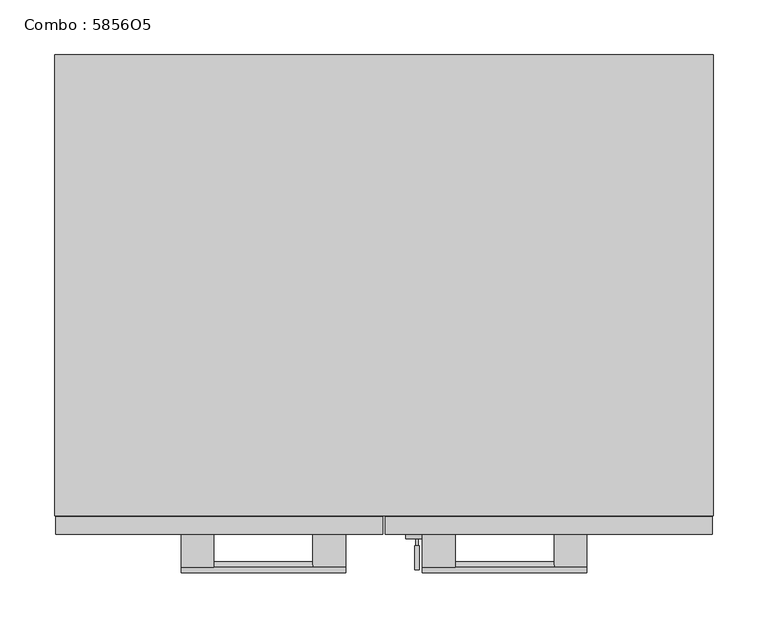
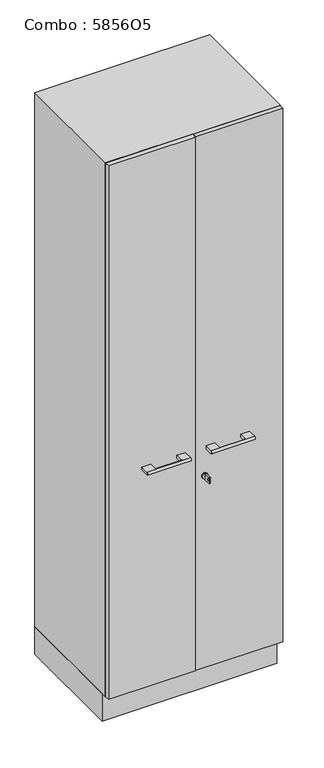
"""IFC4 building model written with IfcOpenShell, lengths in millimetres: furniture geometry, Combo : 5856O5."""

from ifc_helpers import new_model, si_unit, point, frame, frame_2d, origin, origin_with_axes, place, context, project, spatial, polyline, circle_curve, trimmed, segment, composite_curve, outline, extrude, source, transform, mapped, element, save
from ifc_brep_helpers import plane_surface, cylinder_surface, advanced_brep


def combo_5856o5_f4b56ffa(model_context):
    return source(origin(), model_context, "Body", "SolidModel", [
        extrude(outline(polyline([(-300.0, -400.0), (-300.0, 0.0), (300.0, 0.0), (300.0, -400.0), (-300.0, -400.0)])), origin_with_axes(), (0.0, 0.0, 1.0), 100.0),
        extrude(outline(composite_curve([segment(trimmed(circle_curve(frame_2d((800.0, 30.0)), 10.0), [point((800.0, 20.0))], [point((800.0, 40.0))], False, "CARTESIAN"), True, "CONTINUOUS"), segment(trimmed(circle_curve(frame_2d((800.0, 30.0)), 10.0), [point((800.0, 40.0))], [point((800.0, 20.0))], False, "CARTESIAN"), True, "CONTINUOUS")], self_intersect=False)), frame((0.0, -441.0, 0.0), z_axis=(0.0, 1.0, 0.0), x_axis=(0.0, 0.0, 1.0)), (0.0, 0.0, 1.0), 4.0),
        extrude(outline(polyline([(-469.0, 789.014113), (-469.0, 811.0), (-447.0, 811.0), (-447.0, 789.014113), (-469.0, 789.014113)]), holes=[composite_curve([segment(trimmed(circle_curve(frame_2d((-462.75, 800.0070565)), 3.2230706), [point((-462.75, 803.2301271))], [point((-462.75, 796.7839859))], True, "CARTESIAN"), True, "CONTINUOUS"), segment(trimmed(circle_curve(frame_2d((-462.75, 800.0070565)), 3.2230706), [point((-462.75, 796.7839859))], [point((-462.75, 803.2301271))], True, "CARTESIAN"), True, "CONTINUOUS")], self_intersect=False)]), frame((28.0, 0.0, 0.0), z_axis=(1.0, 0.0, 0.0), x_axis=(0.0, 1.0, 0.0)), (0.0, 0.0, 1.0), 4.0416064),
        extrude(outline(polyline([(31.0416064, -447.0), (29.0, -447.0), (29.0, -441.0), (31.0416064, -441.0), (31.0416064, -447.0)])), frame((0.0, 0.0, 796.014113), z_axis=(0.0, 0.0, 1.0), x_axis=(1.0, 0.0, 0.0)), (0.0, 0.0, 1.0), 7.985887),
        advanced_brep(
        [(-185.0, -467.0, 905.0), (-185.0, -437.0, 905.0), (-185.0, -437.0, 895.0), (-185.0, -467.0, 895.0), (-155.0, -467.0, 895.0), (-155.0, -437.0, 895.0), (-155.0, -437.0, 905.0), (-155.0, -467.0, 905.0), (-35.0, -467.0, 905.0), (-35.0, -467.0, 895.0), (-35.0, -437.0, 895.0), (-35.0, -437.0, 905.0), (-65.0, -467.0, 905.0), (-65.0, -467.0, 895.0), (-65.0, -437.0, 905.0), (-65.0, -437.0, 895.0)],
        [
            (0, 1),
            (1, 2),
            (2, 3),
            (3, 0, circle_curve(frame((-185.0, -467.0, 900.0), z_axis=(-1.0, 0.0, 0.0), x_axis=(0.0, 0.0, -1.0)), 5.0)),
            (4, 5),
            (5, 6),
            (6, 7),
            (7, 4, circle_curve(frame((-155.0, -467.0, 900.0), z_axis=(-1.0, 0.0, 0.0), x_axis=(0.0, 0.0, -1.0)), 5.0)),
            (2, 5),
            (4, 3),
            (1, 6),
            (0, 7),
            (8, 9, circle_curve(frame((-35.0, -467.0, 900.0), z_axis=(1.0, 0.0, 0.0), x_axis=(0.0, 0.0, -1.0)), 5.0)),
            (9, 10),
            (10, 11),
            (11, 8),
            (8, 12),
            (12, 7),
            (4, 13),
            (13, 9),
            (12, 13, circle_curve(frame((-65.0, -467.0, 900.0), z_axis=(-1.0, 0.0, 0.0), x_axis=(0.0, 0.0, -1.0)), 5.0)),
            (12, 14),
            (14, 15),
            (15, 13),
            (15, 10),
            (14, 11),
        ],
        [
            plane_surface(frame((-185.0, -467.0, 906.0), z_axis=(-1.0, 0.0, 0.0), x_axis=(0.0, 0.0, 1.0))),
            plane_surface(frame((-155.0, -467.0, 906.0), z_axis=(1.0, 0.0, 0.0), x_axis=(0.0, 0.0, -1.0))),
            plane_surface(frame((-185.0, -437.0, 895.0), z_axis=(0.0, 0.0, -1.0), x_axis=(1.0, 0.0, 0.0))),
            plane_surface(frame((-185.0, -437.0, 905.0), z_axis=(0.0, 1.0, 0.0), x_axis=(1.0, 0.0, 0.0))),
            plane_surface(frame((-185.0, -467.0, 905.0), z_axis=(0.0, 0.0, 1.0), x_axis=(1.0, 0.0, 0.0))),
            plane_surface(frame((-35.0, -467.0, 895.0), z_axis=(1.0, 0.0, 0.0), x_axis=(0.0, 1.0, 0.0))),
            cylinder_surface(frame((-185.0, -467.0, 900.0), z_axis=(1.0, 0.0, 0.0), x_axis=(0.0, 0.0, -1.0)), 5.0),
            plane_surface(frame((-65.0, -555.7415577, 895.0), z_axis=(-1.0, 0.0, 0.0), x_axis=(0.0, -1.0, 0.0))),
            plane_surface(frame((-35.0, -467.0, 895.0), z_axis=(0.0, 0.0, -1.0), x_axis=(-1.0, 0.0, 0.0))),
            plane_surface(frame((-35.0, -437.0, 895.0), z_axis=(0.0, 1.0, 0.0), x_axis=(-1.0, 0.0, 0.0))),
            plane_surface(frame((-35.0, -437.0, 905.0), z_axis=(0.0, 0.0, 1.0), x_axis=(-1.0, 0.0, 0.0))),
        ],
        [
            (0, [[1, 2, 3, 4]]),
            (1, [[5, 6, 7, 8]]),
            (2, [[-3, 9, -5, 10]]),
            (3, [[-2, 11, -6, -9]]),
            (4, [[-1, 12, -7, -11]]),
            (5, [[13, 14, 15, 16]]),
            (6, [[-13, 17, 18, -12, -4, -10, 19, 20]]),
            (6, [[-8, -18, 21, -19]]),
            (7, [[22, 23, 24, -21]]),
            (8, [[-14, -20, -24, 25]]),
            (9, [[-15, -25, -23, 26]]),
            (10, [[-16, -26, -22, -17]]),
        ],
    ),
        advanced_brep(
        [(35.0, -467.0, 905.0), (35.0, -437.0, 905.0), (35.0, -437.0, 895.0), (35.0, -467.0, 895.0), (65.0, -467.0, 895.0), (65.0, -437.0, 895.0), (65.0, -437.0, 905.0), (65.0, -467.0, 905.0), (185.0, -467.0, 905.0), (185.0, -467.0, 895.0), (185.0, -437.0, 895.0), (185.0, -437.0, 905.0), (155.0, -467.0, 905.0), (155.0, -467.0, 895.0), (155.0, -437.0, 905.0), (155.0, -437.0, 895.0)],
        [
            (0, 1),
            (1, 2),
            (2, 3),
            (3, 0, circle_curve(frame((35.0, -467.0, 900.0), z_axis=(-1.0, 0.0, 0.0), x_axis=(0.0, 0.0, -1.0)), 5.0)),
            (4, 5),
            (5, 6),
            (6, 7),
            (7, 4, circle_curve(frame((65.0, -467.0, 900.0), z_axis=(-1.0, 0.0, 0.0), x_axis=(0.0, 0.0, -1.0)), 5.0)),
            (2, 5),
            (4, 3),
            (1, 6),
            (0, 7),
            (8, 9, circle_curve(frame((185.0, -467.0, 900.0), z_axis=(1.0, 0.0, 0.0), x_axis=(0.0, 0.0, -1.0)), 5.0)),
            (9, 10),
            (10, 11),
            (11, 8),
            (8, 12),
            (12, 7),
            (4, 13),
            (13, 9),
            (12, 13, circle_curve(frame((155.0, -467.0, 900.0), z_axis=(-1.0, 0.0, 0.0), x_axis=(0.0, 0.0, -1.0)), 5.0)),
            (12, 14),
            (14, 15),
            (15, 13),
            (15, 10),
            (14, 11),
        ],
        [
            plane_surface(frame((35.0, -467.0, 906.0), z_axis=(-1.0, 0.0, 0.0), x_axis=(0.0, 0.0, 1.0))),
            plane_surface(frame((65.0, -467.0, 906.0), z_axis=(1.0, 0.0, 0.0), x_axis=(0.0, 0.0, -1.0))),
            plane_surface(frame((35.0, -437.0, 895.0), z_axis=(0.0, 0.0, -1.0), x_axis=(1.0, 0.0, 0.0))),
            plane_surface(frame((35.0, -437.0, 905.0), z_axis=(0.0, 1.0, 0.0), x_axis=(1.0, 0.0, 0.0))),
            plane_surface(frame((35.0, -467.0, 905.0), z_axis=(0.0, 0.0, 1.0), x_axis=(1.0, 0.0, 0.0))),
            plane_surface(frame((185.0, -467.0, 895.0), z_axis=(1.0, 0.0, 0.0), x_axis=(0.0, 1.0, 0.0))),
            cylinder_surface(frame((35.0, -467.0, 900.0), z_axis=(1.0, 0.0, 0.0), x_axis=(0.0, 0.0, -1.0)), 5.0),
            plane_surface(frame((155.0, -555.7415577, 895.0), z_axis=(-1.0, 0.0, 0.0), x_axis=(0.0, -1.0, 0.0))),
            plane_surface(frame((185.0, -467.0, 895.0), z_axis=(0.0, 0.0, -1.0), x_axis=(-1.0, 0.0, 0.0))),
            plane_surface(frame((185.0, -437.0, 895.0), z_axis=(0.0, 1.0, 0.0), x_axis=(-1.0, 0.0, 0.0))),
            plane_surface(frame((185.0, -437.0, 905.0), z_axis=(0.0, 0.0, 1.0), x_axis=(-1.0, 0.0, 0.0))),
        ],
        [
            (0, [[1, 2, 3, 4]]),
            (1, [[5, 6, 7, 8]]),
            (2, [[-3, 9, -5, 10]]),
            (3, [[-2, 11, -6, -9]]),
            (4, [[-1, 12, -7, -11]]),
            (5, [[13, 14, 15, 16]]),
            (6, [[-13, 17, 18, -12, -4, -10, 19, 20]]),
            (6, [[-8, -18, 21, -19]]),
            (7, [[22, 23, 24, -21]]),
            (8, [[-14, -20, -24, 25]]),
            (9, [[-15, -25, -23, 26]]),
            (10, [[-16, -26, -22, -17]]),
        ],
    ),
        extrude(outline(polyline([(-1.0, -437.0), (-299.0, -437.0), (-299.0, -421.0), (-1.0, -421.0), (-1.0, -437.0)])), frame((0.0, 0.0, 101.0), z_axis=(0.0, 0.0, 1.0), x_axis=(1.0, 0.0, 0.0)), (0.0, 0.0, 1.0), 1938.0),
        extrude(outline(polyline([(299.0, -437.0), (1.0, -437.0), (1.0, -421.0), (299.0, -421.0), (299.0, -437.0)])), frame((0.0, 0.0, 101.0), z_axis=(0.0, 0.0, 1.0), x_axis=(1.0, 0.0, 0.0)), (0.0, 0.0, 1.0), 1938.0),
        extrude(outline(polyline([(300.0, 0.0), (300.0, -420.0), (-300.0, -420.0), (-300.0, 0.0), (300.0, 0.0)])), frame((0.0, 0.0, 100.0), z_axis=(0.0, 0.0, 1.0), x_axis=(1.0, 0.0, 0.0)), (0.0, 0.0, 1.0), 1940.0),
    ])


if __name__ == "__main__":
    model = new_model("IFC4")
    model_context = context("Model", 3, world=origin())
    ifc_project = project(units=[si_unit("LENGTHUNIT", "METRE", prefix="MILLI")], contexts=[model_context])
    site = spatial("IfcSite", under=ifc_project)
    building = spatial("IfcBuilding", under=site)
    placement = place(None, origin())
    combo_5856o5_shape = combo_5856o5_f4b56ffa(model_context)
    element("IfcFurniture", 1, ObjectType="Combo : 5856O5", at=placement, inside=building, context=model_context, shape_type="MappedRepresentation", body=[
        mapped(combo_5856o5_shape, transform((0.0, 0.0, 0.0), x_axis=(1.0, 0.0, 0.0), y_axis=(0.0, 1.0, 0.0), z_axis=(0.0, 0.0, 1.0))),
    ])
    save(model, "model.ifc")
